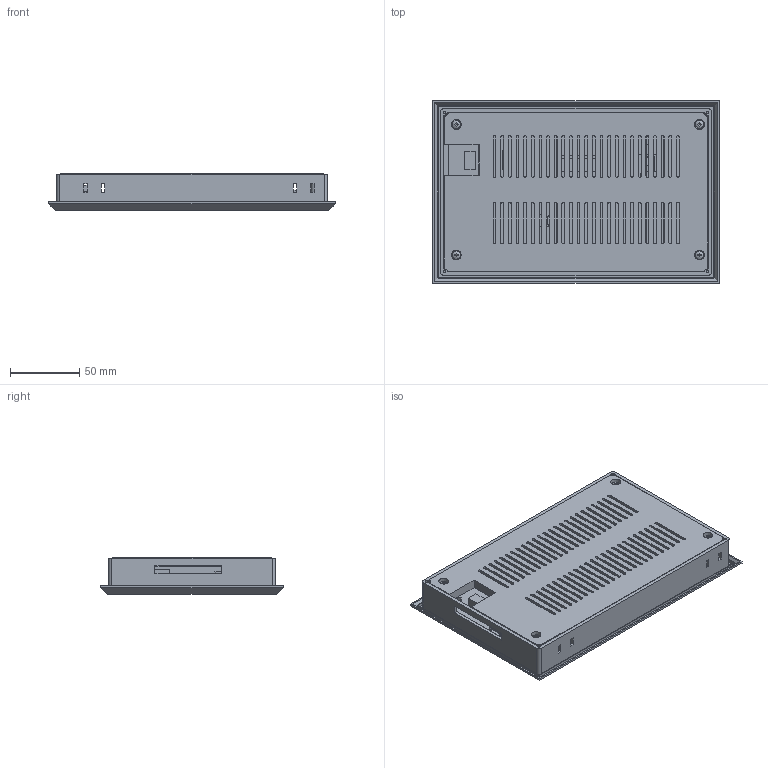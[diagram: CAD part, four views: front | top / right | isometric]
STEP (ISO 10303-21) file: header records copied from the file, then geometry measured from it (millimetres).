
FILE_DESCRIPTION(/* description */ (''),/* implementation_level */ '2;1');
FILE_NAME(/* name */ '3D-VTc070S34_stp.stp',/* time_stamp */ '2025-02-15T11:11:50+08:00',/* author */ (''),/* organization */ (''),/* preprocessor_version */ 'ST-DEVELOPER v16',/* originating_system */ 'SIEMENS PLM Software NX 10.0',/* authorisation */ '');
FILE_SCHEMA (('AP203_CONFIGURATION_CONTROLLED_3D_DESIGN_OF_MECHANICAL_PARTS_AND_ASSEMBLIES_MIM_LF { 1 0 10303 403 2 1 2}'));
Length unit declared in the file: millimetre
Products named in the file (4): M3X6612; luosi_MODEL615; 7cunhougai_stp614; 3D-VTc070S34_stp
Assembly tree (6 placements, depth 4):
  3D-VTc070S34_stp
    7cunhougai_stp614
      luosi_MODEL615  x4
        M3X6612
Bounding box: 206.5 x 131.4 x 26.2 mm (x, y, z)
Volume: 278152.8 mm3; surface area: 242103.9 mm2
Topology: 21 solids, 21 shells, 1867 faces, 5240 edges, 3427 vertices
Faces by surface type: plane 1317, cylinder 334, cone 125, bspline 80, sphere 4, torus 4, extrusion 3
Full cylindrical faces by diameter (mm): 2 x4, 2.874 x4, 3 x4, 3.2 x12, 5.6 x4, 7 x4
Entity records: 59187 total; most frequent: CARTESIAN_POINT 10387, ORIENTED_EDGE 9870, DIRECTION 9305, EDGE_CURVE 4935, VECTOR 3977, LINE 3974, VERTEX_POINT 3246, AXIS2_PLACEMENT_3D 2664
